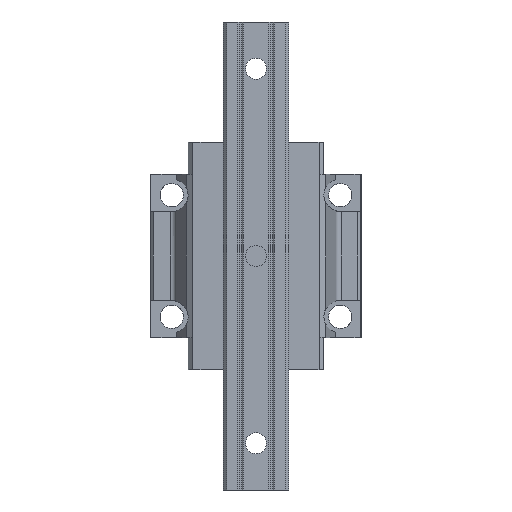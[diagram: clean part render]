
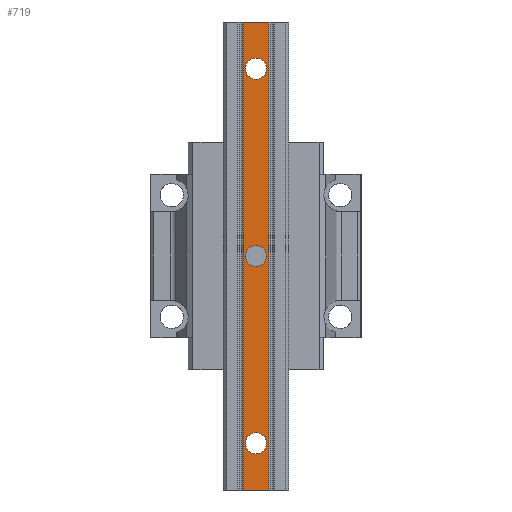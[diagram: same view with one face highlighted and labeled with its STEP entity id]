
A CAD part, front view. The second image highlights one B-rep face of the part: STEP entity #719.
In plain terms, the highlighted planar face has unit normal (0, -1, 0).
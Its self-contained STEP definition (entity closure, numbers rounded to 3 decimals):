
#51 = DIRECTION ( 'NONE',  ( 1., 0., 0. ) ) ;
#80 = CARTESIAN_POINT ( 'NONE',  ( 0., -26., -80. ) ) ;
#123 = DIRECTION ( 'NONE',  ( -1., 0., 0. ) ) ;
#148 = EDGE_CURVE ( 'NONE', #8897, #9089, #2331, .T. ) ;
#179 = CARTESIAN_POINT ( 'NONE',  ( 5.55, -26., 100. ) ) ;
#230 = FACE_BOUND ( 'NONE', #8367, .T. ) ;
#260 = ORIENTED_EDGE ( 'NONE', *, *, #455, .T. ) ;
#374 = PLANE ( 'NONE',  #8102 ) ;
#419 = DIRECTION ( 'NONE',  ( 0., 0., -1. ) ) ;
#455 = EDGE_CURVE ( 'NONE', #2082, #4020, #9080, .T. ) ;
#719 = ADVANCED_FACE ( 'NONE', ( #1744, #230, #2614, #6511 ), #374, .T. ) ;
#768 = ORIENTED_EDGE ( 'NONE', *, *, #824, .T. ) ;
#824 = EDGE_CURVE ( 'NONE', #4454, #7282, #4683, .T. ) ;
#934 = DIRECTION ( 'NONE',  ( -1., 0., 0. ) ) ;
#940 = CARTESIAN_POINT ( 'NONE',  ( 5.55, -26., -100. ) ) ;
#1029 = VECTOR ( 'NONE', #51, 1000. ) ;
#1240 = CARTESIAN_POINT ( 'NONE',  ( -4.5, -26., 80. ) ) ;
#1374 = LINE ( 'NONE', #4442, #2008 ) ;
#1536 = VERTEX_POINT ( 'NONE', #179 ) ;
#1611 = LINE ( 'NONE', #6274, #9572 ) ;
#1615 = ORIENTED_EDGE ( 'NONE', *, *, #5496, .T. ) ;
#1744 = FACE_BOUND ( 'NONE', #9712, .T. ) ;
#2008 = VECTOR ( 'NONE', #7530, 1000. ) ;
#2082 = VERTEX_POINT ( 'NONE', #1240 ) ;
#2278 = EDGE_CURVE ( 'NONE', #7848, #6177, #5586, .T. ) ;
#2331 = CIRCLE ( 'NONE', #6304, 4.5 ) ;
#2483 = DIRECTION ( 'NONE',  ( -1., 0., 0. ) ) ;
#2502 = DIRECTION ( 'NONE',  ( 0., 0., -1. ) ) ;
#2506 = ORIENTED_EDGE ( 'NONE', *, *, #3517, .T. ) ;
#2515 = AXIS2_PLACEMENT_3D ( 'NONE', #7378, #5848, #8959 ) ;
#2536 = ORIENTED_EDGE ( 'NONE', *, *, #2278, .T. ) ;
#2614 = FACE_BOUND ( 'NONE', #2924, .T. ) ;
#2862 = DIRECTION ( 'NONE',  ( 0., 1., 0. ) ) ;
#2924 = EDGE_LOOP ( 'NONE', ( #5553, #4723 ) ) ;
#3517 = EDGE_CURVE ( 'NONE', #5240, #4454, #1611, .T. ) ;
#3604 = DIRECTION ( 'NONE',  ( -1., 0., 0. ) ) ;
#4020 = VERTEX_POINT ( 'NONE', #5464 ) ;
#4041 = DIRECTION ( 'NONE',  ( -1., 0., 0. ) ) ;
#4309 = CARTESIAN_POINT ( 'NONE',  ( 0., -26., 0. ) ) ;
#4442 = CARTESIAN_POINT ( 'NONE',  ( 5.55, -26., -100. ) ) ;
#4454 = VERTEX_POINT ( 'NONE', #5668 ) ;
#4683 = LINE ( 'NONE', #7734, #1029 ) ;
#4723 = ORIENTED_EDGE ( 'NONE', *, *, #7750, .T. ) ;
#4816 = CARTESIAN_POINT ( 'NONE',  ( 0., -26., 80. ) ) ;
#4817 = AXIS2_PLACEMENT_3D ( 'NONE', #4309, #2862, #3604 ) ;
#4873 = DIRECTION ( 'NONE',  ( 0., 1., 0. ) ) ;
#5240 = VERTEX_POINT ( 'NONE', #7201 ) ;
#5338 = CARTESIAN_POINT ( 'NONE',  ( -4.5, -26., 0. ) ) ;
#5462 = CARTESIAN_POINT ( 'NONE',  ( 0., -26., 0. ) ) ;
#5464 = CARTESIAN_POINT ( 'NONE',  ( 4.5, -26., 80. ) ) ;
#5496 = EDGE_CURVE ( 'NONE', #4020, #2082, #7072, .T. ) ;
#5543 = CIRCLE ( 'NONE', #2515, 4.5 ) ;
#5553 = ORIENTED_EDGE ( 'NONE', *, *, #148, .T. ) ;
#5586 = CIRCLE ( 'NONE', #9800, 4.5 ) ;
#5588 = CARTESIAN_POINT ( 'NONE',  ( 4.5, -26., -80. ) ) ;
#5668 = CARTESIAN_POINT ( 'NONE',  ( -5.55, -26., -100. ) ) ;
#5848 = DIRECTION ( 'NONE',  ( 0., 1., 0. ) ) ;
#6147 = DIRECTION ( 'NONE',  ( 0., 1., 0. ) ) ;
#6166 = ORIENTED_EDGE ( 'NONE', *, *, #7252, .F. ) ;
#6177 = VERTEX_POINT ( 'NONE', #5338 ) ;
#6274 = CARTESIAN_POINT ( 'NONE',  ( -5.55, -26., -100. ) ) ;
#6304 = AXIS2_PLACEMENT_3D ( 'NONE', #80, #4873, #123 ) ;
#6322 = CARTESIAN_POINT ( 'NONE',  ( 0., -26., 100. ) ) ;
#6511 = FACE_OUTER_BOUND ( 'NONE', #9085, .T. ) ;
#6924 = CARTESIAN_POINT ( 'NONE',  ( 0., -26., 80. ) ) ;
#7072 = CIRCLE ( 'NONE', #8549, 4.5 ) ;
#7182 = DIRECTION ( 'NONE',  ( 0., 1., 0. ) ) ;
#7201 = CARTESIAN_POINT ( 'NONE',  ( -5.55, -26., 100. ) ) ;
#7252 = EDGE_CURVE ( 'NONE', #5240, #1536, #8519, .T. ) ;
#7282 = VERTEX_POINT ( 'NONE', #940 ) ;
#7314 = ORIENTED_EDGE ( 'NONE', *, *, #8659, .T. ) ;
#7378 = CARTESIAN_POINT ( 'NONE',  ( 0., -26., -80. ) ) ;
#7530 = DIRECTION ( 'NONE',  ( 0., 0., 1. ) ) ;
#7683 = CARTESIAN_POINT ( 'NONE',  ( 4.5, -26., 0. ) ) ;
#7734 = CARTESIAN_POINT ( 'NONE',  ( 0., -26., -100. ) ) ;
#7750 = EDGE_CURVE ( 'NONE', #9089, #8897, #5543, .T. ) ;
#7848 = VERTEX_POINT ( 'NONE', #7683 ) ;
#8102 = AXIS2_PLACEMENT_3D ( 'NONE', #8908, #8960, #419 ) ;
#8367 = EDGE_LOOP ( 'NONE', ( #260, #1615 ) ) ;
#8519 = LINE ( 'NONE', #6322, #9732 ) ;
#8549 = AXIS2_PLACEMENT_3D ( 'NONE', #4816, #7182, #934 ) ;
#8659 = EDGE_CURVE ( 'NONE', #7282, #1536, #1374, .T. ) ;
#8677 = DIRECTION ( 'NONE',  ( 1., 0., 0. ) ) ;
#8742 = ORIENTED_EDGE ( 'NONE', *, *, #9862, .T. ) ;
#8897 = VERTEX_POINT ( 'NONE', #9053 ) ;
#8908 = CARTESIAN_POINT ( 'NONE',  ( -5.55, -26., -100. ) ) ;
#8959 = DIRECTION ( 'NONE',  ( -1., 0., 0. ) ) ;
#8960 = DIRECTION ( 'NONE',  ( 0., -1., 0. ) ) ;
#9031 = CIRCLE ( 'NONE', #4817, 4.5 ) ;
#9053 = CARTESIAN_POINT ( 'NONE',  ( -4.5, -26., -80. ) ) ;
#9080 = CIRCLE ( 'NONE', #9241, 4.5 ) ;
#9085 = EDGE_LOOP ( 'NONE', ( #7314, #6166, #2506, #768 ) ) ;
#9089 = VERTEX_POINT ( 'NONE', #5588 ) ;
#9241 = AXIS2_PLACEMENT_3D ( 'NONE', #6924, #9426, #2483 ) ;
#9426 = DIRECTION ( 'NONE',  ( 0., 1., 0. ) ) ;
#9572 = VECTOR ( 'NONE', #2502, 1000. ) ;
#9712 = EDGE_LOOP ( 'NONE', ( #8742, #2536 ) ) ;
#9732 = VECTOR ( 'NONE', #8677, 1000. ) ;
#9800 = AXIS2_PLACEMENT_3D ( 'NONE', #5462, #6147, #4041 ) ;
#9862 = EDGE_CURVE ( 'NONE', #6177, #7848, #9031, .T. ) ;
